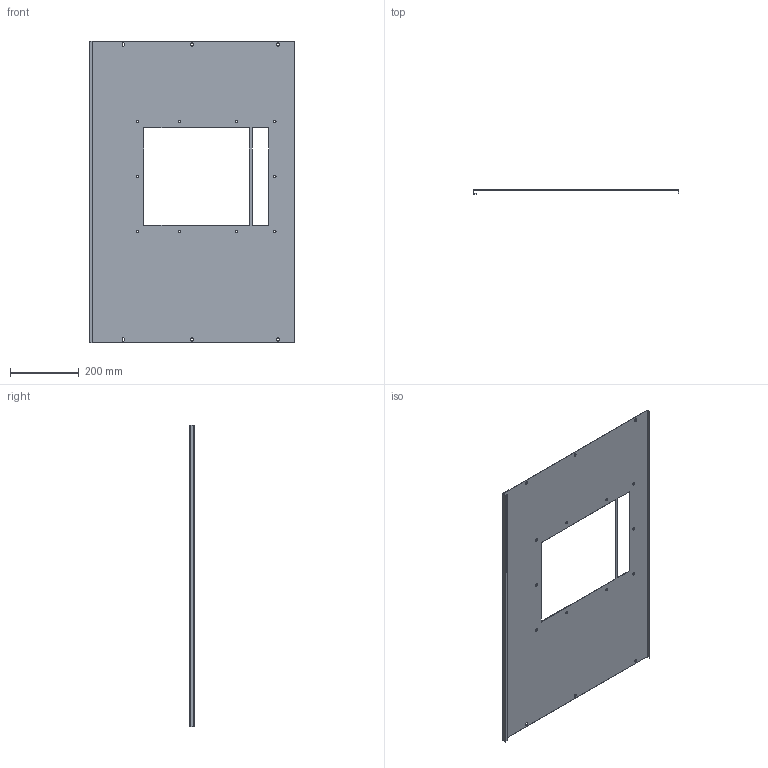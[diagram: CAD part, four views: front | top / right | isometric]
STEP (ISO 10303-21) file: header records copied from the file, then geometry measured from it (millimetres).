
FILE_DESCRIPTION (( 'STEP AP214' ), '1' );
FILE_NAME ('FO-00-PVG-060-100 Ïëàñòðîí ñ âûðåçîì äëÿ ACB Armat G 3II4P W 600õ1000.STEP', '2025-08-26T07:22:13', ( '' ), ( '' ), 'SwSTEP 2.0', 'SolidWorks 2023', '' );
FILE_SCHEMA (( 'AUTOMOTIVE_DESIGN' ));
Length unit declared in the file: millimetre
Products named in the file (1): FO-00-PVG-060-100 Пластрон с вырезом для ACB Armat G 3II4P W 600х1000
Bounding box: 598 x 12.5 x 879 mm (x, y, z)
Volume: 670883.3 mm3; surface area: 902379 mm2
Topology: 1 solids, 1 shells, 80 faces, 234 edges, 156 vertices
Faces by surface type: plane 42, cylinder 38
Entity records: 2769 total; most frequent: DIRECTION 472, CARTESIAN_POINT 471, ORIENTED_EDGE 468, EDGE_CURVE 234, VECTOR 158, LINE 158, AXIS2_PLACEMENT_3D 157, VERTEX_POINT 156
